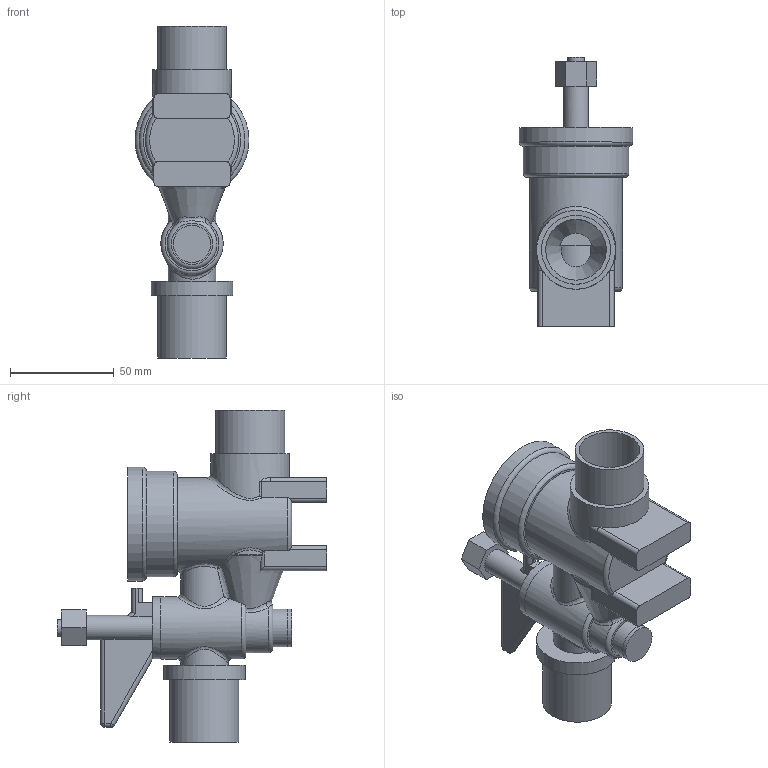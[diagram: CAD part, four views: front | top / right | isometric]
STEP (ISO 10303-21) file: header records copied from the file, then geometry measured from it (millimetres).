
FILE_DESCRIPTION(/* description */ (''),/* implementation_level */ '2;1');
FILE_NAME(/* name */ 'C:\Dropbox\99-16-3568-Processing\Mechanical Fittings\03510-2\03510-2-01.ipt.stp',/* time_stamp */ '2021-08-08T14:36:05+03:00',/* author */ ('Lenora'),/* organization */ (''),/* preprocessor_version */ 'ST-DEVELOPER v17.2',/* originating_system */ 'Autodesk Inventor 2019',/* authorisation */ '');
FILE_SCHEMA (('AUTOMOTIVE_DESIGN { 1 0 10303 214 3 1 1 }'));
Length unit declared in the file: millimetre
Products named in the file (1): 03510-01
Bounding box: 54.84 x 130 x 160 mm (x, y, z)
Volume: 172666.9 mm3; surface area: 66451 mm2
Topology: 3 solids, 3 shells, 165 faces, 431 edges, 288 vertices
Faces by surface type: plane 63, cylinder 62, bspline 16, torus 11, cone 7, sphere 6
Full cylindrical faces by diameter (mm): 7 x2, 8 x1, 12 x5, 14 x1, 18 x2, 23 x1, 24 x1, 29.249 x2, 30 x2, 33.249 x2, 34.845 x1, 38 x1, 39.249 x1, 44.845 x1, 50.845 x1, 54.845 x1
Entity records: 7131 total; most frequent: CARTESIAN_POINT 3104, ORIENTED_EDGE 862, DIRECTION 797, EDGE_CURVE 431, AXIS2_PLACEMENT_3D 326, VERTEX_POINT 288, EDGE_LOOP 185, CIRCLE 166
